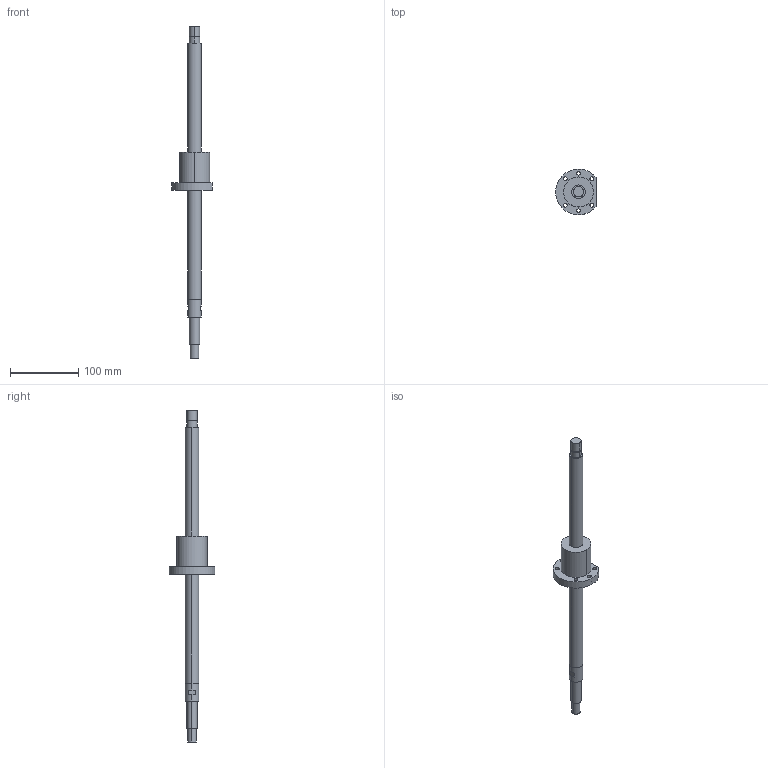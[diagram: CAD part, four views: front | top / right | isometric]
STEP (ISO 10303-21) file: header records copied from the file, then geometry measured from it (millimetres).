
FILE_DESCRIPTION((''),'2;1');
FILE_NAME('PRT0001','2008-03-31T',('mahdi'),(''),'PRO/ENGINEER BY PARAMETRIC TECHNOLOGY CORPORATION, 2005070','PRO/ENGINEER BY PARAMETRIC TECHNOLOGY CORPORATION, 2005070','');
FILE_SCHEMA(('CONFIG_CONTROL_DESIGN'));
Length unit declared in the file: millimetre
Products named in the file (1): PRT0001
Bounding box: 59.38 x 66.95 x 486 mm (x, y, z)
Volume: 223300.2 mm3; surface area: 41895 mm2
Topology: 1 solids, 1 shells, 67 faces, 150 edges, 100 vertices
Faces by surface type: cylinder 43, plane 24
Entity records: 1980 total; most frequent: DIRECTION 378, CARTESIAN_POINT 317, ORIENTED_EDGE 300, AXIS2_PLACEMENT_3D 161, EDGE_CURVE 150, VERTEX_POINT 100, EDGE_LOOP 94, CIRCLE 94
